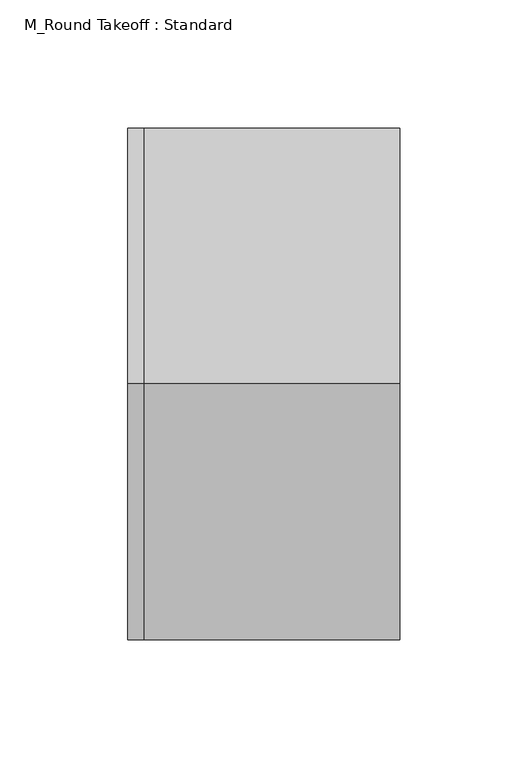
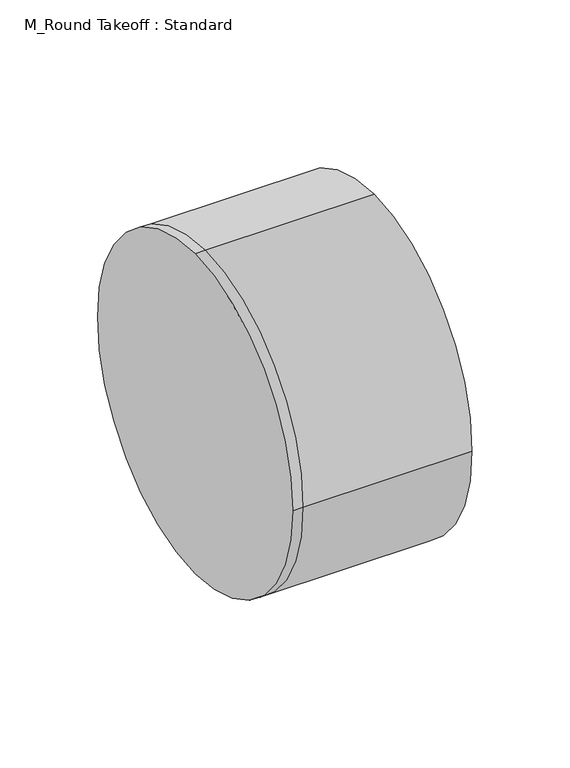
"""IFC4 building model written with IfcOpenShell, lengths in millimetres: duct fitting geometry, M_Round Takeoff : Standard."""

from ifc_helpers import new_model, si_unit, frame, origin, place, context, project, spatial, circle_curve, source, transform, mapped, element, save
from ifc_brep_helpers import plane_surface, cylinder_surface, advanced_brep


def m_round_takeoff_standard_496960af(model_context):
    return source(origin(), model_context, "Body", "AdvancedBrep", [
        advanced_brep(
        [(-6.0972529, 0.0, 100.0), (-6.0972529, 100.0, 0.0), (-6.0972529, 0.0, -100.0), (-6.0972529, -100.0, 0.0), (0.0, -100.0, 0.0), (0.0, 0.0, 100.0), (0.0, 0.0, -100.0), (0.0, 100.0, 0.0), (100.0012529, 0.0, 100.0), (100.0012529, -100.0, 0.0), (100.0012529, 0.0, -100.0), (100.0012529, 100.0, 0.0)],
        [
            (0, 1, circle_curve(frame((-6.0972529, 0.0, 0.0), z_axis=(-1.0, 0.0, 0.0), x_axis=(0.0, -1.0, 0.0)), 100.0)),
            (1, 2, circle_curve(frame((-6.0972529, 0.0, 0.0), z_axis=(-1.0, 0.0, 0.0), x_axis=(0.0, -1.0, 0.0)), 100.0)),
            (2, 3, circle_curve(frame((-6.0972529, 0.0, 0.0), z_axis=(-1.0, 0.0, 0.0), x_axis=(0.0, -1.0, 0.0)), 100.0)),
            (3, 0, circle_curve(frame((-6.0972529, 0.0, 0.0), z_axis=(-1.0, 0.0, 0.0), x_axis=(0.0, -1.0, 0.0)), 100.0)),
            (3, 4),
            (4, 5, circle_curve(frame((0.0, 0.0, 0.0), z_axis=(-1.0, 0.0, 0.0), x_axis=(0.0, -1.0, 0.0)), 100.0)),
            (5, 0),
            (2, 6),
            (6, 4, circle_curve(frame((0.0, 0.0, 0.0), z_axis=(-1.0, 0.0, 0.0), x_axis=(0.0, -1.0, 0.0)), 100.0)),
            (1, 7),
            (7, 6, circle_curve(frame((0.0, 0.0, 0.0), z_axis=(-1.0, 0.0, 0.0), x_axis=(0.0, -1.0, 0.0)), 100.0)),
            (5, 7, circle_curve(frame((0.0, 0.0, 0.0), z_axis=(-1.0, 0.0, 0.0), x_axis=(0.0, -1.0, 0.0)), 100.0)),
            (8, 9, circle_curve(frame((100.0012529, 0.0, 0.0), z_axis=(1.0, 0.0, 0.0), x_axis=(0.0, -1.0, 0.0)), 100.0)),
            (9, 10, circle_curve(frame((100.0012529, 0.0, 0.0), z_axis=(1.0, 0.0, 0.0), x_axis=(0.0, -1.0, 0.0)), 100.0)),
            (10, 11, circle_curve(frame((100.0012529, 0.0, 0.0), z_axis=(1.0, 0.0, 0.0), x_axis=(0.0, -1.0, 0.0)), 100.0)),
            (11, 8, circle_curve(frame((100.0012529, 0.0, 0.0), z_axis=(1.0, 0.0, 0.0), x_axis=(0.0, -1.0, 0.0)), 100.0)),
            (8, 5),
            (4, 9),
            (6, 10),
            (7, 11),
        ],
        [
            plane_surface(frame((-6.0972529, 0.0, 0.0), z_axis=(-1.0, 0.0, 0.0), x_axis=(0.0, 0.0, 1.0))),
            cylinder_surface(frame((-6.0972529, 0.0, 0.0), z_axis=(-1.0, 0.0, 0.0), x_axis=(0.0, -1.0, 0.0)), 100.0),
            plane_surface(frame((100.0012529, 0.0, 0.0), z_axis=(1.0, 0.0, 0.0), x_axis=(0.0, 0.0, 1.0))),
            cylinder_surface(frame((0.0, 0.0, 0.0), z_axis=(-1.0, 0.0, 0.0), x_axis=(0.0, -1.0, 0.0)), 100.0),
        ],
        [
            (0, [[1, 2, 3, 4]]),
            (1, [[5, 6, 7, -4]]),
            (1, [[8, 9, -5, -3]]),
            (1, [[10, 11, -8, -2]]),
            (1, [[-7, 12, -10, -1]]),
            (2, [[13, 14, 15, 16]]),
            (3, [[17, -6, 18, -13]]),
            (3, [[-18, -9, 19, -14]]),
            (3, [[-19, -11, 20, -15]]),
            (3, [[-20, -12, -17, -16]]),
        ],
    ),
        advanced_brep(
        [(100.0012529, 0.0, 100.0), (100.0012529, -100.0, 0.0), (100.0012529, 0.0, -100.0), (100.0012529, 100.0, 0.0), (0.0, 0.0, 100.0), (0.0, -100.0, 0.0), (0.0, 0.0, -100.0), (0.0, 100.0, 0.0), (-6.0972529, 0.0, 100.0), (-6.0972529, 100.0, 0.0), (-6.0972529, 0.0, -100.0), (-6.0972529, -100.0, 0.0)],
        [
            (0, 1, circle_curve(frame((100.0012529, 0.0, 0.0), z_axis=(1.0, 0.0, 0.0), x_axis=(0.0, -1.0, 0.0)), 100.0)),
            (1, 2, circle_curve(frame((100.0012529, 0.0, 0.0), z_axis=(1.0, 0.0, 0.0), x_axis=(0.0, -1.0, 0.0)), 100.0)),
            (2, 3, circle_curve(frame((100.0012529, 0.0, 0.0), z_axis=(1.0, 0.0, 0.0), x_axis=(0.0, -1.0, 0.0)), 100.0)),
            (3, 0, circle_curve(frame((100.0012529, 0.0, 0.0), z_axis=(1.0, 0.0, 0.0), x_axis=(0.0, -1.0, 0.0)), 100.0)),
            (0, 4),
            (4, 5, circle_curve(frame((0.0, 0.0, 0.0), z_axis=(1.0, 0.0, 0.0), x_axis=(0.0, -1.0, 0.0)), 100.0)),
            (5, 1),
            (5, 6, circle_curve(frame((0.0, 0.0, 0.0), z_axis=(1.0, 0.0, 0.0), x_axis=(0.0, -1.0, 0.0)), 100.0)),
            (6, 2),
            (6, 7, circle_curve(frame((0.0, 0.0, 0.0), z_axis=(1.0, 0.0, 0.0), x_axis=(0.0, -1.0, 0.0)), 100.0)),
            (7, 3),
            (7, 4, circle_curve(frame((0.0, 0.0, 0.0), z_axis=(1.0, 0.0, 0.0), x_axis=(0.0, -1.0, 0.0)), 100.0)),
            (8, 9, circle_curve(frame((-6.0972529, 0.0, 0.0), z_axis=(-1.0, 0.0, 0.0), x_axis=(0.0, -1.0, 0.0)), 100.0)),
            (9, 10, circle_curve(frame((-6.0972529, 0.0, 0.0), z_axis=(-1.0, 0.0, 0.0), x_axis=(0.0, -1.0, 0.0)), 100.0)),
            (10, 11, circle_curve(frame((-6.0972529, 0.0, 0.0), z_axis=(-1.0, 0.0, 0.0), x_axis=(0.0, -1.0, 0.0)), 100.0)),
            (11, 8, circle_curve(frame((-6.0972529, 0.0, 0.0), z_axis=(-1.0, 0.0, 0.0), x_axis=(0.0, -1.0, 0.0)), 100.0)),
            (11, 5),
            (4, 8),
            (10, 6),
            (9, 7),
        ],
        [
            plane_surface(frame((100.0012529, 0.0, 0.0), z_axis=(1.0, 0.0, 0.0), x_axis=(0.0, 0.0, 1.0))),
            cylinder_surface(frame((0.0, 0.0, 0.0), z_axis=(-1.0, 0.0, 0.0), x_axis=(0.0, -1.0, 0.0)), 100.0),
            plane_surface(frame((-6.0972529, 0.0, 0.0), z_axis=(-1.0, 0.0, 0.0), x_axis=(0.0, 0.0, 1.0))),
            cylinder_surface(frame((-6.0972529, 0.0, 0.0), z_axis=(-1.0, 0.0, 0.0), x_axis=(0.0, -1.0, 0.0)), 100.0),
        ],
        [
            (0, [[1, 2, 3, 4]]),
            (1, [[5, 6, 7, -1]]),
            (1, [[-7, 8, 9, -2]]),
            (1, [[-9, 10, 11, -3]]),
            (1, [[-11, 12, -5, -4]]),
            (2, [[13, 14, 15, 16]]),
            (3, [[17, -6, 18, -16]]),
            (3, [[19, -8, -17, -15]]),
            (3, [[20, -10, -19, -14]]),
            (3, [[-18, -12, -20, -13]]),
        ],
    ),
        advanced_brep(
        [(-6.0972529, 0.0, 100.0), (-6.0972529, 100.0, 0.0), (-6.0972529, 0.0, -100.0), (-6.0972529, -100.0, 0.0), (0.0, -100.0, 0.0), (0.0, 0.0, 100.0), (0.0, 0.0, -100.0), (0.0, 100.0, 0.0), (100.0012529, 0.0, 100.0), (100.0012529, -100.0, 0.0), (100.0012529, 0.0, -100.0), (100.0012529, 100.0, 0.0)],
        [
            (0, 1, circle_curve(frame((-6.0972529, 0.0, 0.0), z_axis=(-1.0, 0.0, 0.0), x_axis=(0.0, -1.0, 0.0)), 100.0)),
            (1, 2, circle_curve(frame((-6.0972529, 0.0, 0.0), z_axis=(-1.0, 0.0, 0.0), x_axis=(0.0, -1.0, 0.0)), 100.0)),
            (2, 3, circle_curve(frame((-6.0972529, 0.0, 0.0), z_axis=(-1.0, 0.0, 0.0), x_axis=(0.0, -1.0, 0.0)), 100.0)),
            (3, 0, circle_curve(frame((-6.0972529, 0.0, 0.0), z_axis=(-1.0, 0.0, 0.0), x_axis=(0.0, -1.0, 0.0)), 100.0)),
            (3, 4),
            (4, 5, circle_curve(frame((0.0, 0.0, 0.0), z_axis=(-1.0, 0.0, 0.0), x_axis=(0.0, -1.0, 0.0)), 100.0)),
            (5, 0),
            (2, 6),
            (6, 4, circle_curve(frame((0.0, 0.0, 0.0), z_axis=(-1.0, 0.0, 0.0), x_axis=(0.0, -1.0, 0.0)), 100.0)),
            (1, 7),
            (7, 6, circle_curve(frame((0.0, 0.0, 0.0), z_axis=(-1.0, 0.0, 0.0), x_axis=(0.0, -1.0, 0.0)), 100.0)),
            (5, 7, circle_curve(frame((0.0, 0.0, 0.0), z_axis=(-1.0, 0.0, 0.0), x_axis=(0.0, -1.0, 0.0)), 100.0)),
            (8, 9, circle_curve(frame((100.0012529, 0.0, 0.0), z_axis=(1.0, 0.0, 0.0), x_axis=(0.0, -1.0, 0.0)), 100.0)),
            (9, 10, circle_curve(frame((100.0012529, 0.0, 0.0), z_axis=(1.0, 0.0, 0.0), x_axis=(0.0, -1.0, 0.0)), 100.0)),
            (10, 11, circle_curve(frame((100.0012529, 0.0, 0.0), z_axis=(1.0, 0.0, 0.0), x_axis=(0.0, -1.0, 0.0)), 100.0)),
            (11, 8, circle_curve(frame((100.0012529, 0.0, 0.0), z_axis=(1.0, 0.0, 0.0), x_axis=(0.0, -1.0, 0.0)), 100.0)),
            (8, 5),
            (4, 9),
            (6, 10),
            (7, 11),
        ],
        [
            plane_surface(frame((-6.0972529, 0.0, 0.0), z_axis=(-1.0, 0.0, 0.0), x_axis=(0.0, 0.0, 1.0))),
            cylinder_surface(frame((-6.0972529, 0.0, 0.0), z_axis=(-1.0, 0.0, 0.0), x_axis=(0.0, -1.0, 0.0)), 100.0),
            plane_surface(frame((100.0012529, 0.0, 0.0), z_axis=(1.0, 0.0, 0.0), x_axis=(0.0, 0.0, 1.0))),
            cylinder_surface(frame((0.0, 0.0, 0.0), z_axis=(-1.0, 0.0, 0.0), x_axis=(0.0, -1.0, 0.0)), 100.0),
        ],
        [
            (0, [[1, 2, 3, 4]]),
            (1, [[5, 6, 7, -4]]),
            (1, [[8, 9, -5, -3]]),
            (1, [[10, 11, -8, -2]]),
            (1, [[-7, 12, -10, -1]]),
            (2, [[13, 14, 15, 16]]),
            (3, [[17, -6, 18, -13]]),
            (3, [[-18, -9, 19, -14]]),
            (3, [[-19, -11, 20, -15]]),
            (3, [[-20, -12, -17, -16]]),
        ],
    ),
    ])


if __name__ == "__main__":
    model = new_model("IFC4")
    model_context = context("Model", 3, world=origin())
    ifc_project = project(units=[si_unit("LENGTHUNIT", "METRE", prefix="MILLI")], contexts=[model_context])
    site = spatial("IfcSite", under=ifc_project)
    building = spatial("IfcBuilding", under=site)
    placement = place(None, origin())
    m_round_takeoff_standard_shape = m_round_takeoff_standard_496960af(model_context)
    element("IfcDuctFitting", 1, ObjectType="M_Round Takeoff : Standard", at=placement, inside=building, context=model_context, shape_type="MappedRepresentation", body=[
        mapped(m_round_takeoff_standard_shape, transform((0.0, 0.0, 0.0), x_axis=(1.0, 0.0, 0.0), y_axis=(0.0, 1.0, 0.0), z_axis=(0.0, 0.0, 1.0))),
    ])
    save(model, "model.ifc")
